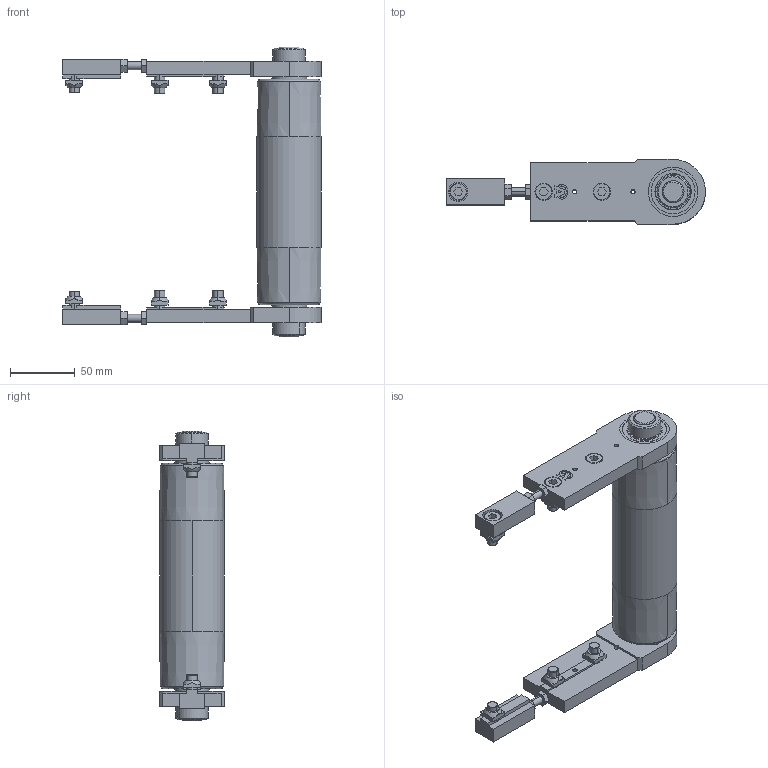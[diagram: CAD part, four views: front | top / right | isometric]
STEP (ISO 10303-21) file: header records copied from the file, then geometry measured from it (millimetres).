
FILE_DESCRIPTION (( 'STEP AP203' ), '1' );
FILE_NAME ('084.050.KIC.150.STEP', '2019-07-29T10:23:10', ( '' ), ( '' ), 'SwSTEP 2.0', 'SolidWorks 2018', '' );
FILE_SCHEMA (( 'CONFIG_CONTROL_DESIGN' ));
Length unit declared in the file: millimetre
Products named in the file (9): 084.811.004; 084.807.004_084.807.004; 084.802.008; 084.050.KIC.150; 084.301.000 VITI ALUSIC_084.301.003; 084.815.102_Default<A macchina>; 084.302.000 DADI ALUSIC 13x13_084.302.004; 084.810.001; 084.802.017_084.802.017
Assembly tree (23 placements, depth 2):
  084.050.KIC.150
    084.807.004_084.807.004  x2
    084.802.017_084.802.017  x2
    084.811.004  x2
    084.815.102_Default<A macchina>
    084.810.001  x2
    084.802.008  x2
    084.301.000 VITI ALUSIC_084.301.003  x6
    084.302.000 DADI ALUSIC 13x13_084.302.004  x6
Bounding box: 200 x 50 x 224 mm (x, y, z)
Volume: 320369.5 mm3; surface area: 178558.9 mm2
Topology: 29 solids, 31 shells, 758 faces, 1890 edges, 1228 vertices
Faces by surface type: plane 350, cylinder 218, torus 76, cone 60, bspline 46, sphere 8
Entity records: 12534 total; most frequent: CARTESIAN_POINT 2408, DIRECTION 1913, ORIENTED_EDGE 1782, EDGE_CURVE 891, AXIS2_PLACEMENT_3D 736, VERTEX_POINT 583, LINE 441, VECTOR 441
